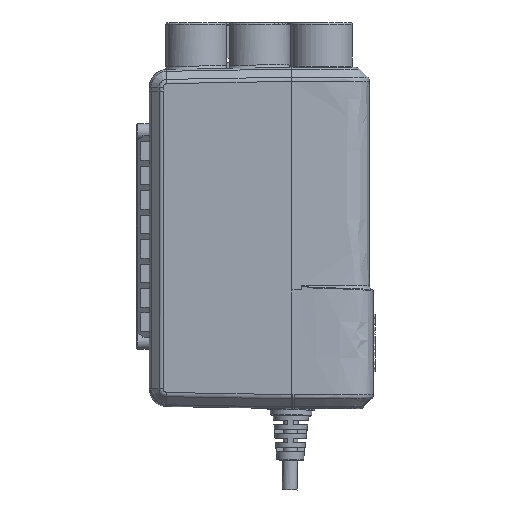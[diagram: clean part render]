
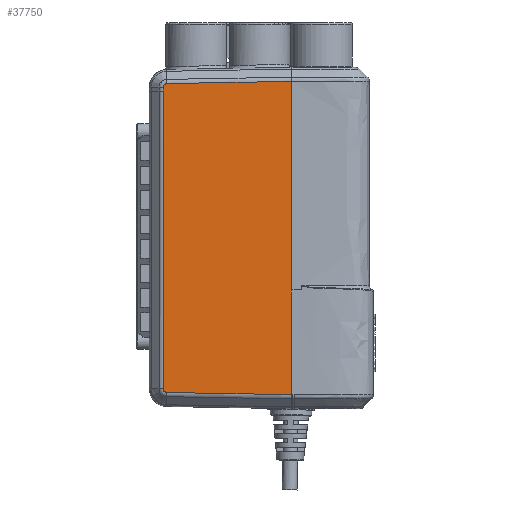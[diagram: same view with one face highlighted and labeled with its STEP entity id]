
A CAD part, front view. The second image highlights one B-rep face of the part: STEP entity #37750.
In plain terms, the highlighted planar face has unit normal (-0.018, -1, 0).
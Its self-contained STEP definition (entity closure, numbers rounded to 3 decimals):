
#17505 = EDGE_CURVE ( 'NONE', #34280, #34282, #70454, .T. ) ;
#17506 = EDGE_CURVE ( 'NONE', #34284, #34286, #68280, .T. ) ;
#17507 = EDGE_CURVE ( 'NONE', #34286, #34289, #70455, .T. ) ;
#17508 = EDGE_CURVE ( 'NONE', #34275, #34280, #68279, .T. ) ;
#17509 = EDGE_CURVE ( 'NONE', #34275, #34277, #68284, .T. ) ;
#17510 = EDGE_CURVE ( 'NONE', #34282, #34284, #46439, .T. ) ;
#17511 = EDGE_CURVE ( 'NONE', #34289, #34290, #46441, .T. ) ;
#17512 = EDGE_CURVE ( 'NONE', #34290, #34277, #46443, .T. ) ;
#18704 = EDGE_LOOP ( 'NONE', ( #68954, #68956, #68958, #68960, #68962, #68964, #68966, #68968 ) ) ;
#34275 = VERTEX_POINT ( 'NONE', #60596 ) ;
#34277 = VERTEX_POINT ( 'NONE', #60598 ) ;
#34280 = VERTEX_POINT ( 'NONE', #60597 ) ;
#34282 = VERTEX_POINT ( 'NONE', #60603 ) ;
#34284 = VERTEX_POINT ( 'NONE', #60606 ) ;
#34286 = VERTEX_POINT ( 'NONE', #60607 ) ;
#34289 = VERTEX_POINT ( 'NONE', #60608 ) ;
#34290 = VERTEX_POINT ( 'NONE', #60613 ) ;
#36630 = FACE_OUTER_BOUND ( 'NONE', #18704, .T. ) ;
#37750 = ADVANCED_FACE ( 'NONE', ( #36630 ), #70167, .T. ) ;
#46439 = LINE ( 'NONE', #51805, #46440 ) ;
#46440 = VECTOR ( 'NONE', #51806, 1000. ) ;
#46441 = LINE ( 'NONE', #51807, #46442 ) ;
#46442 = VECTOR ( 'NONE', #51808, 1000. ) ;
#46443 = LINE ( 'NONE', #51809, #46444 ) ;
#46444 = VECTOR ( 'NONE', #51810, 1000. ) ;
#51766 = CARTESIAN_POINT ( 'NONE',  ( 5.899, -47.765, -5.464 ) ) ;
#51779 = CARTESIAN_POINT ( 'NONE',  ( 4.651, -47.743, -108.271 ) ) ;
#51780 = CARTESIAN_POINT ( 'NONE',  ( 4.651, -47.743, -115. ) ) ;
#51781 = CARTESIAN_POINT ( 'NONE',  ( 5.733, -47.762, -5.466 ) ) ;
#51782 = CARTESIAN_POINT ( 'NONE',  ( 5.572, -47.759, -5.503 ) ) ;
#51783 = CARTESIAN_POINT ( 'NONE',  ( 5.271, -47.754, -5.633 ) ) ;
#51784 = CARTESIAN_POINT ( 'NONE',  ( 5.132, -47.752, -5.726 ) ) ;
#51785 = CARTESIAN_POINT ( 'NONE',  ( 4.903, -47.748, -5.958 ) ) ;
#51786 = CARTESIAN_POINT ( 'NONE',  ( 4.812, -47.746, -6.098 ) ) ;
#51787 = CARTESIAN_POINT ( 'NONE',  ( 4.686, -47.744, -6.4 ) ) ;
#51788 = CARTESIAN_POINT ( 'NONE',  ( 4.651, -47.743, -6.563 ) ) ;
#51789 = CARTESIAN_POINT ( 'NONE',  ( 4.651, -47.743, -6.729 ) ) ;
#51790 = DIRECTION ( 'NONE',  ( 0., 0., -1. ) ) ;
#51792 = CARTESIAN_POINT ( 'NONE',  ( 4.651, -47.743, -108.437 ) ) ;
#51793 = CARTESIAN_POINT ( 'NONE',  ( 4.686, -47.744, -108.599 ) ) ;
#51794 = CARTESIAN_POINT ( 'NONE',  ( 4.812, -47.746, -108.902 ) ) ;
#51795 = CARTESIAN_POINT ( 'NONE',  ( 4.903, -47.748, -109.042 ) ) ;
#51796 = CARTESIAN_POINT ( 'NONE',  ( 5.132, -47.752, -109.274 ) ) ;
#51797 = CARTESIAN_POINT ( 'NONE',  ( 5.271, -47.754, -109.367 ) ) ;
#51798 = CARTESIAN_POINT ( 'NONE',  ( 5.57, -47.759, -109.496 ) ) ;
#51799 = CARTESIAN_POINT ( 'NONE',  ( 5.733, -47.762, -109.534 ) ) ;
#51800 = CARTESIAN_POINT ( 'NONE',  ( 5.899, -47.765, -109.536 ) ) ;
#51801 = CARTESIAN_POINT ( 'NONE',  ( 46.076, -48.466, -4.763 ) ) ;
#51802 = DIRECTION ( 'NONE',  ( -1., 0.017, -0.017 ) ) ;
#51803 = CARTESIAN_POINT ( 'NONE',  ( 47.75, -48.496, -115. ) ) ;
#51804 = DIRECTION ( 'NONE',  ( 0., 0., -1. ) ) ;
#51805 = CARTESIAN_POINT ( 'NONE',  ( 4.651, -47.743, -115. ) ) ;
#51806 = DIRECTION ( 'NONE',  ( 0., 0., -1. ) ) ;
#51807 = CARTESIAN_POINT ( 'NONE',  ( 48.082, -48.501, -110.272 ) ) ;
#51808 = DIRECTION ( 'NONE',  ( 1., -0.017, -0.017 ) ) ;
#51809 = CARTESIAN_POINT ( 'NONE',  ( 47.75, -48.496, -216.078 ) ) ;
#51810 = DIRECTION ( 'NONE',  ( 0., 0., 1. ) ) ;
#60596 = CARTESIAN_POINT ( 'NONE',  ( 47.75, -48.496, -4.734 ) ) ;
#60597 = CARTESIAN_POINT ( 'NONE',  ( 5.899, -47.765, -5.464 ) ) ;
#60598 = CARTESIAN_POINT ( 'NONE',  ( 47.75, -48.496, -75.004 ) ) ;
#60603 = CARTESIAN_POINT ( 'NONE',  ( 4.651, -47.743, -6.729 ) ) ;
#60606 = CARTESIAN_POINT ( 'NONE',  ( 4.651, -47.743, -8. ) ) ;
#60607 = CARTESIAN_POINT ( 'NONE',  ( 4.651, -47.743, -108.271 ) ) ;
#60608 = CARTESIAN_POINT ( 'NONE',  ( 5.899, -47.765, -109.536 ) ) ;
#60613 = CARTESIAN_POINT ( 'NONE',  ( 47.75, -48.496, -110.267 ) ) ;
#66152 = AXIS2_PLACEMENT_3D ( 'NONE', #70165, #70177, #70179 ) ;
#68271 = VECTOR ( 'NONE', #51802, 1000. ) ;
#68279 = LINE ( 'NONE', #51801, #68271 ) ;
#68280 = LINE ( 'NONE', #51780, #68281 ) ;
#68281 = VECTOR ( 'NONE', #51790, 1000. ) ;
#68284 = LINE ( 'NONE', #51803, #68285 ) ;
#68285 = VECTOR ( 'NONE', #51804, 1000. ) ;
#68954 = ORIENTED_EDGE ( 'NONE', *, *, #17509, .F. ) ;
#68956 = ORIENTED_EDGE ( 'NONE', *, *, #17508, .T. ) ;
#68958 = ORIENTED_EDGE ( 'NONE', *, *, #17505, .T. ) ;
#68960 = ORIENTED_EDGE ( 'NONE', *, *, #17510, .T. ) ;
#68962 = ORIENTED_EDGE ( 'NONE', *, *, #17506, .T. ) ;
#68964 = ORIENTED_EDGE ( 'NONE', *, *, #17507, .T. ) ;
#68966 = ORIENTED_EDGE ( 'NONE', *, *, #17511, .T. ) ;
#68968 = ORIENTED_EDGE ( 'NONE', *, *, #17512, .T. ) ;
#70165 = CARTESIAN_POINT ( 'NONE',  ( 48., -48.5, -115. ) ) ;
#70167 = PLANE ( 'NONE',  #66152 ) ;
#70177 = DIRECTION ( 'NONE',  ( -0.017, -1., 0. ) ) ;
#70179 = DIRECTION ( 'NONE',  ( 1., -0.017, 0. ) ) ;
#70454 = B_SPLINE_CURVE_WITH_KNOTS ( 'NONE', 3,
 ( #51766, #51781, #51782, #51783, #51784, #51785, #51786, #51787, #51788, #51789 ),
 .UNSPECIFIED., .F., .F.,
 ( 4, 2, 2, 2, 4 ),
 ( 0., 0., 0.001, 0.001, 0.002 ),
 .UNSPECIFIED. ) ;
#70455 = B_SPLINE_CURVE_WITH_KNOTS ( 'NONE', 3,
 ( #51779, #51792, #51793, #51794, #51795, #51796, #51797, #51798, #51799, #51800 ),
 .UNSPECIFIED., .F., .F.,
 ( 4, 2, 2, 2, 4 ),
 ( 0., 0., 0.001, 0.001, 0.002 ),
 .UNSPECIFIED. ) ;
